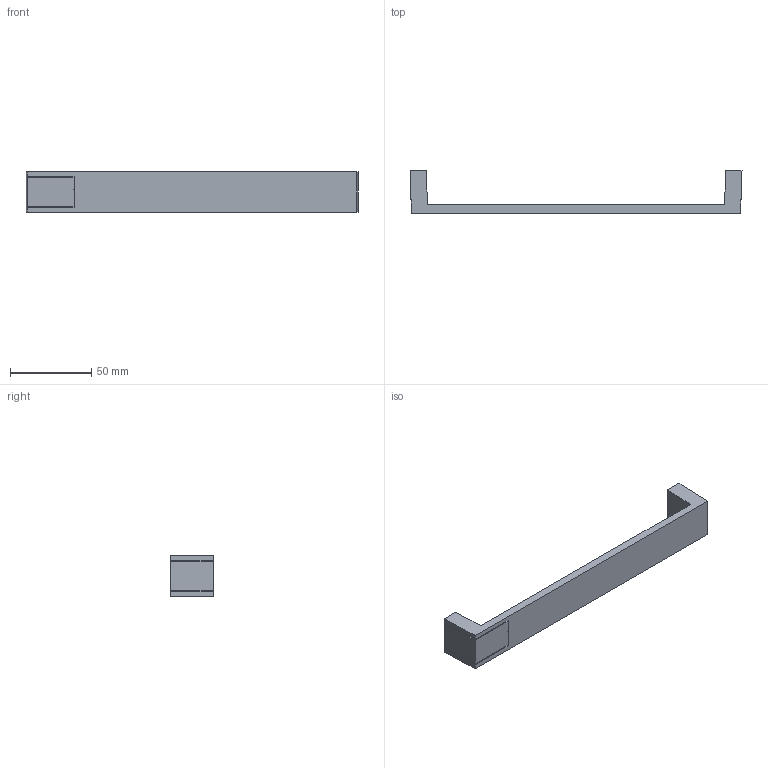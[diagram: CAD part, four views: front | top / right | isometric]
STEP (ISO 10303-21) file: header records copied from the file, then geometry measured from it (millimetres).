
FILE_DESCRIPTION( ( 'STEP AP214' ), '1' );
FILE_NAME( 'C:/Users/KOSH/Desktop/2021/Sunil/New folder/9105737.stp', '2021-11-15T12:48:01', ( '' ), ( '' ), ' ', 'PARTsolutions', ' ' );
FILE_SCHEMA( ( 'AUTOMOTIVE_DESIGN { 1 0 10303 214 1 1 1 1 }' ) );
Length unit declared in the file: millimetre
Products named in the file (1): _9105737
Bounding box: 204 x 26.07 x 25 mm (x, y, z)
Volume: 35202.1 mm3; surface area: 17004.2 mm2
Topology: 1 solids, 1 shells, 40 faces, 104 edges, 68 vertices
Faces by surface type: plane 32, cylinder 8
Full cylindrical faces by diameter (mm): 4 x2
Entity records: 1538 total; most frequent: CARTESIAN_POINT 211, ORIENTED_EDGE 204, DIRECTION 200, EDGE_CURVE 102, LINE 86, VECTOR 86, VERTEX_POINT 68, AXIS2_PLACEMENT_3D 57
